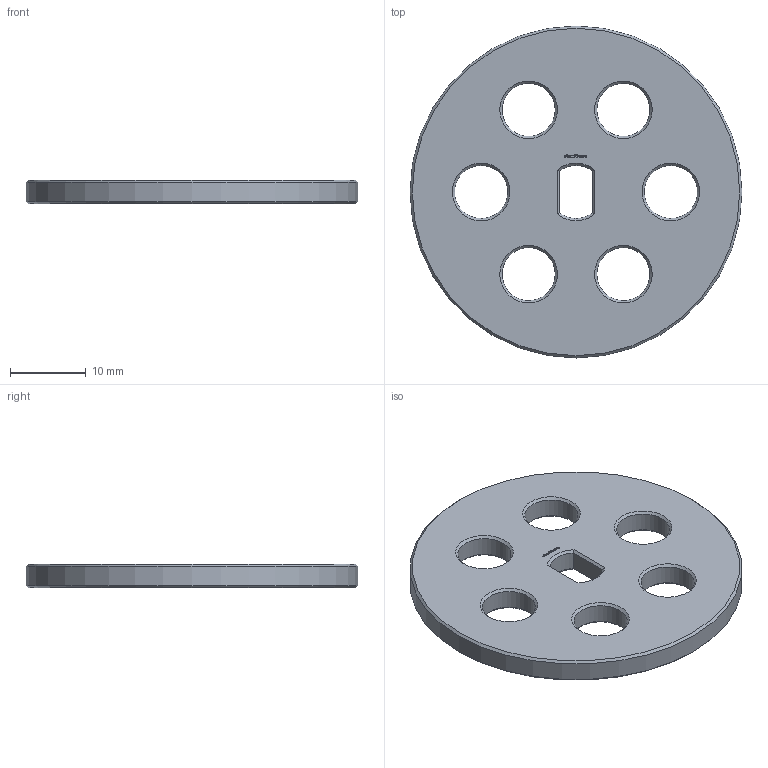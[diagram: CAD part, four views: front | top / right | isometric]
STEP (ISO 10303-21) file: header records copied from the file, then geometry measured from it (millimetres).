
FILE_DESCRIPTION(/* description */ (''),/* implementation_level */ '2;1');
FILE_NAME(/* name */ '/Users/paulokiefe/Desktop/STEMFIE/Fasteners/Washers/Fixed/Washer WSR FXD BU0.25x3.50 - SPN-WSR-0011 v1.step',/* time_stamp */ '2020-09-27T23:15:51+02:00',/* author */ (''),/* organization */ (''),/* preprocessor_version */ 'ST-DEVELOPER v18.1',/* originating_system */ 'Autodesk Translation Framework v9.3.0.1241',/* authorisation */ '');
FILE_SCHEMA (('AUTOMOTIVE_DESIGN { 1 0 10303 214 3 1 1 }'));
Length unit declared in the file: millimetre
Products named in the file (1): Washer WSR FXD BU0.25x3.50 - SPN-WSR-0011
Bounding box: 43.75 x 43.75 x 3.12 mm (x, y, z)
Volume: 3860.3 mm3; surface area: 3293.4 mm2
Topology: 1 solids, 1 shells, 279 faces, 773 edges, 508 vertices
Faces by surface type: plane 252, cone 18, cylinder 9
Full cylindrical faces by diameter (mm): 7 x6, 43.75 x1
Entity records: 8796 total; most frequent: CARTESIAN_POINT 1585, ORIENTED_EDGE 1546, DIRECTION 1361, EDGE_CURVE 773, LINE 729, VECTOR 729, VERTEX_POINT 508, AXIS2_PLACEMENT_3D 316
